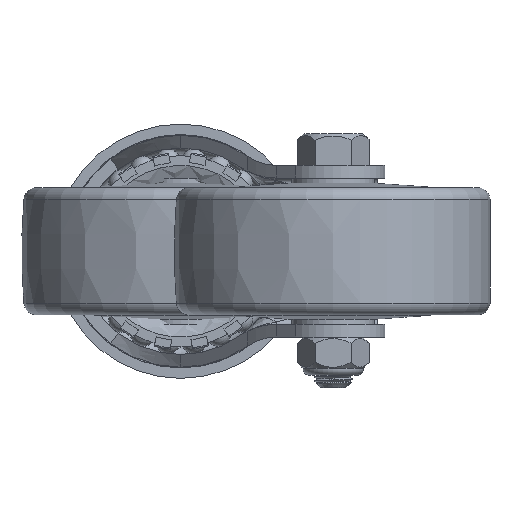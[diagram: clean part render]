
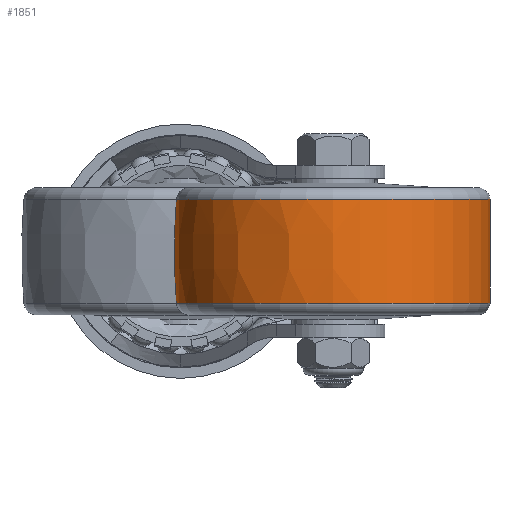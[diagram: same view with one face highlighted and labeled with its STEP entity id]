
A CAD part, front view. The second image highlights one B-rep face of the part: STEP entity #1851.
In plain terms, the highlighted free-form (B-spline) face has degree [3, 3] with [4, 7] control points.
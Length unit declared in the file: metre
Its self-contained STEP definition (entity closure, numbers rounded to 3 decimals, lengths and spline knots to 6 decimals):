
#1851=ADVANCED_FACE('',(#4241,#4242),#4243,.T.);
#4241=FACE_OUTER_BOUND('',#8476,.T.);
#4242=FACE_OUTER_BOUND('',#8477,.T.);
#4243=(B_SPLINE_SURFACE(3,3,((#8479,#8480,#8481,#8482,#8483,#8484,#8485),(#8486,#8487,#8488,#8489,#8490,#8491,#8492),(#8493,#8494,#8495,#8496,#8497,#8498,#8499),(#8500,#8501,#8502,#8503,#8504,#8505,#8506)),.UNSPECIFIED.,.F.,.T.,.F.)B_SPLINE_SURFACE_WITH_KNOTS((4,4),(4,3,4),(0.0,6.283185),(-0.081515,0.,0.081515),.UNSPECIFIED.)RATIONAL_B_SPLINE_SURFACE(((1.0,0.333,0.333,1.0,0.333,0.333,1.0),(0.998,0.333,0.333,0.998,0.333,0.333,0.998),(0.998,0.333,0.333,0.998,0.333,0.333,0.998),(1.0,0.333,0.333,1.0,0.333,0.333,1.0)))BOUNDED_SURFACE()REPRESENTATION_ITEM('')GEOMETRIC_REPRESENTATION_ITEM()SURFACE());
#8476=EDGE_LOOP('',(#18139));
#8477=EDGE_LOOP('',(#18140));
#8479=CARTESIAN_POINT('',(0.008163,0.,-0.024667));
#8480=CARTESIAN_POINT('',(0.008163,0.049334,-0.024667));
#8481=CARTESIAN_POINT('',(0.008163,0.049334,0.024667));
#8482=CARTESIAN_POINT('',(0.008163,0.,0.024667));
#8483=CARTESIAN_POINT('',(0.008163,-0.049334,0.024667));
#8484=CARTESIAN_POINT('',(0.008163,-0.049334,-0.024667));
#8485=CARTESIAN_POINT('',(0.008163,0.,-0.024667));
#8486=CARTESIAN_POINT('',(0.002727,0.,-0.025111));
#8487=CARTESIAN_POINT('',(0.002727,0.050222,-0.025111));
#8488=CARTESIAN_POINT('',(0.002727,0.050222,0.025111));
#8489=CARTESIAN_POINT('',(0.002727,0.,0.025111));
#8490=CARTESIAN_POINT('',(0.002727,-0.050222,0.025111));
#8491=CARTESIAN_POINT('',(0.002727,-0.050222,-0.025111));
#8492=CARTESIAN_POINT('',(0.002727,0.,-0.025111));
#8493=CARTESIAN_POINT('',(-0.002727,0.,-0.025111));
#8494=CARTESIAN_POINT('',(-0.002727,0.050222,-0.025111));
#8495=CARTESIAN_POINT('',(-0.002727,0.050222,0.025111));
#8496=CARTESIAN_POINT('',(-0.002727,0.,0.025111));
#8497=CARTESIAN_POINT('',(-0.002727,-0.050222,0.025111));
#8498=CARTESIAN_POINT('',(-0.002727,-0.050222,-0.025111));
#8499=CARTESIAN_POINT('',(-0.002727,0.,-0.025111));
#8500=CARTESIAN_POINT('',(-0.008163,0.,-0.024667));
#8501=CARTESIAN_POINT('',(-0.008163,0.049334,-0.024667));
#8502=CARTESIAN_POINT('',(-0.008163,0.049334,0.024667));
#8503=CARTESIAN_POINT('',(-0.008163,0.,0.024667));
#8504=CARTESIAN_POINT('',(-0.008163,-0.049334,0.024667));
#8505=CARTESIAN_POINT('',(-0.008163,-0.049334,-0.024667));
#8506=CARTESIAN_POINT('',(-0.008163,0.,-0.024667));
#18139=ORIENTED_EDGE('',*,*,#21410,.T.);
#18140=ORIENTED_EDGE('',*,*,#21411,.F.);
#21410=EDGE_CURVE('',#26560,#26560,#26561,.T.);
#21411=EDGE_CURVE('',#26562,#26562,#26563,.T.);
#26560=VERTEX_POINT('',#37386);
#26561=CIRCLE('',#37387,0.024667);
#26562=VERTEX_POINT('',#37388);
#26563=CIRCLE('',#37389,0.024667);
#37386=CARTESIAN_POINT('',(0.008163,0.0,0.024667));
#37387=AXIS2_PLACEMENT_3D('',#40880,#40881,#40882);
#37388=CARTESIAN_POINT('',(-0.008163,0.0,0.024667));
#37389=AXIS2_PLACEMENT_3D('',#40883,#40884,#40885);
#40880=CARTESIAN_POINT('',(0.008163,0.0,0.0));
#40881=DIRECTION('',(-1.0,0.0,0.0));
#40882=DIRECTION('',(0.0,0.0,1.0));
#40883=CARTESIAN_POINT('',(-0.008163,0.0,0.0));
#40884=DIRECTION('',(-1.0,0.0,0.0));
#40885=DIRECTION('',(0.0,0.0,1.0));
